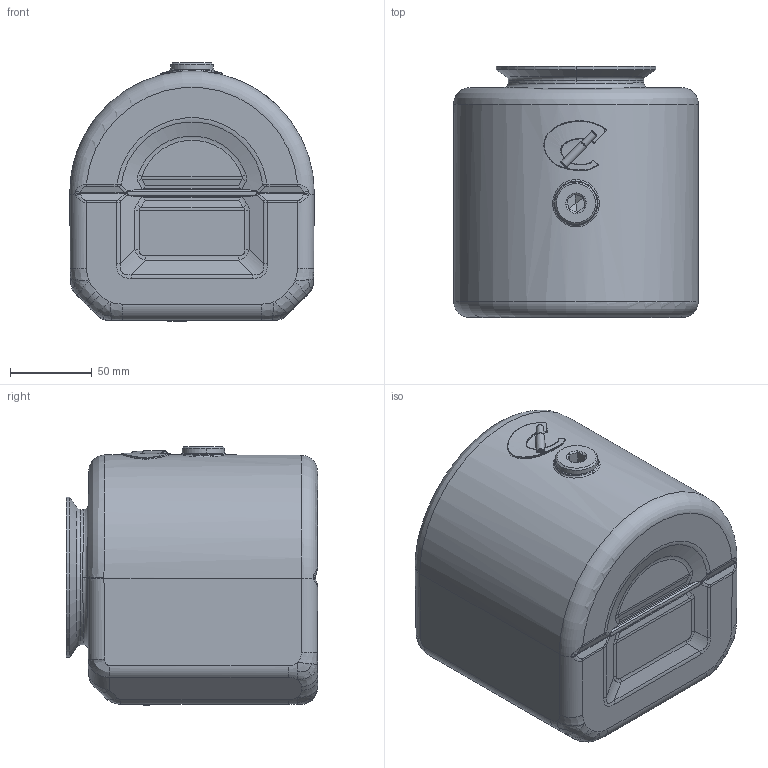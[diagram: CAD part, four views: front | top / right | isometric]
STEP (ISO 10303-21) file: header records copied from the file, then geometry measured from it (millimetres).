
FILE_DESCRIPTION (( 'STEP AP203' ), '1' );
FILE_NAME ('RP2P.STEP', '2022-07-06T13:08:04', ( '' ), ( '' ), 'SwSTEP 2.0', 'SolidWorks 2021', '' );
FILE_SCHEMA (( 'CONFIG_CONTROL_DESIGN' ));
Length unit declared in the file: millimetre
Products named in the file (1): RP2P
Bounding box: 150 x 154 x 158.49 mm (x, y, z)
Surface area: 173100.9 mm2 (no closed solid volume)
Topology: 0 solids, 4 shells, 338 faces, 1010 edges, 661 vertices
Faces by surface type: bspline 136, plane 97, cylinder 68, cone 19, torus 18
Entity records: 23594 total; most frequent: CARTESIAN_POINT 15929, ORIENTED_EDGE 1773, DIRECTION 1149, EDGE_CURVE 1010, VERTEX_POINT 661, AXIS2_PLACEMENT_3D 415, B_SPLINE_CURVE_WITH_KNOTS 400, EDGE_LOOP 367
